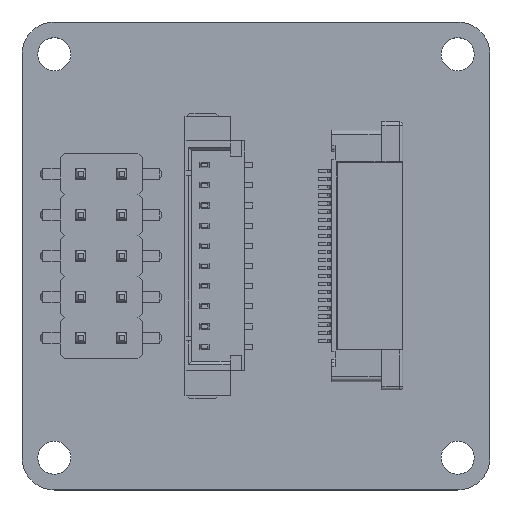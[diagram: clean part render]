
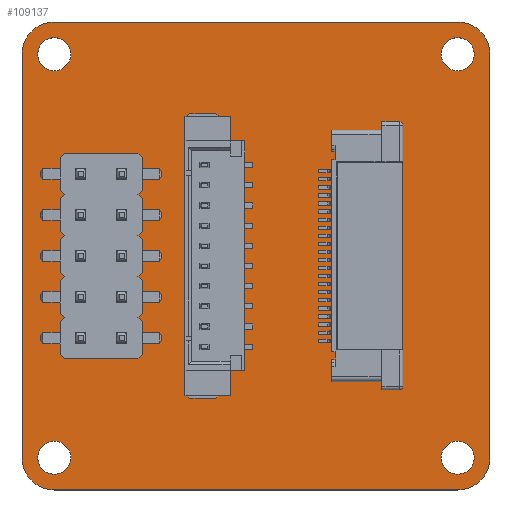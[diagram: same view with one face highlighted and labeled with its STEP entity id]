
A CAD part, top view. The second image highlights one B-rep face of the part: STEP entity #109137.
In plain terms, the highlighted planar face has unit normal (0, 0, 1).
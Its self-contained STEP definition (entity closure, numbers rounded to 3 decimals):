
#108944 = VERTEX_POINT('',#108945);
#108945 = CARTESIAN_POINT('',(77.,-121.,1.59));
#108951 = EDGE_CURVE('',#108944,#108952,#108954,.T.);
#108952 = VERTEX_POINT('',#108953);
#108953 = CARTESIAN_POINT('',(79.,-123.,1.59));
#108954 = CIRCLE('',#108955,2.);
#108955 = AXIS2_PLACEMENT_3D('',#108956,#108957,#108958);
#108956 = CARTESIAN_POINT('',(77.,-123.,1.59));
#108957 = DIRECTION('',(0.,0.,-1.));
#108958 = DIRECTION('',(0.,1.,0.));
#108986 = VERTEX_POINT('',#108987);
#108987 = CARTESIAN_POINT('',(52.,-121.,1.59));
#108993 = EDGE_CURVE('',#108986,#108944,#108994,.T.);
#108994 = LINE('',#108995,#108996);
#108995 = CARTESIAN_POINT('',(52.,-121.,1.59));
#108996 = VECTOR('',#108997,1.);
#108997 = DIRECTION('',(1.,0.,0.));
#109015 = EDGE_CURVE('',#108952,#109016,#109018,.T.);
#109016 = VERTEX_POINT('',#109017);
#109017 = CARTESIAN_POINT('',(79.,-148.,1.59));
#109018 = LINE('',#109019,#109020);
#109019 = CARTESIAN_POINT('',(79.,-123.,1.59));
#109020 = VECTOR('',#109021,1.);
#109021 = DIRECTION('',(0.,-1.,0.));
#109137 = ADVANCED_FACE('',(#109138,#109184,#109195,#109206,#109217),
  #109228,.T.);
#109138 = FACE_BOUND('',#109139,.T.);
#109139 = EDGE_LOOP('',(#109140,#109141,#109142,#109151,#109159,#109168,
    #109176,#109183));
#109140 = ORIENTED_EDGE('',*,*,#108951,.F.);
#109141 = ORIENTED_EDGE('',*,*,#108993,.F.);
#109142 = ORIENTED_EDGE('',*,*,#109143,.F.);
#109143 = EDGE_CURVE('',#109144,#108986,#109146,.T.);
#109144 = VERTEX_POINT('',#109145);
#109145 = CARTESIAN_POINT('',(50.,-123.,1.59));
#109146 = CIRCLE('',#109147,2.);
#109147 = AXIS2_PLACEMENT_3D('',#109148,#109149,#109150);
#109148 = CARTESIAN_POINT('',(52.,-123.,1.59));
#109149 = DIRECTION('',(0.,0.,-1.));
#109150 = DIRECTION('',(-1.,0.,-0.));
#109151 = ORIENTED_EDGE('',*,*,#109152,.F.);
#109152 = EDGE_CURVE('',#109153,#109144,#109155,.T.);
#109153 = VERTEX_POINT('',#109154);
#109154 = CARTESIAN_POINT('',(50.,-148.,1.59));
#109155 = LINE('',#109156,#109157);
#109156 = CARTESIAN_POINT('',(50.,-148.,1.59));
#109157 = VECTOR('',#109158,1.);
#109158 = DIRECTION('',(0.,1.,0.));
#109159 = ORIENTED_EDGE('',*,*,#109160,.F.);
#109160 = EDGE_CURVE('',#109161,#109153,#109163,.T.);
#109161 = VERTEX_POINT('',#109162);
#109162 = CARTESIAN_POINT('',(52.,-150.,1.59));
#109163 = CIRCLE('',#109164,2.);
#109164 = AXIS2_PLACEMENT_3D('',#109165,#109166,#109167);
#109165 = CARTESIAN_POINT('',(52.,-148.,1.59));
#109166 = DIRECTION('',(0.,0.,-1.));
#109167 = DIRECTION('',(0.,-1.,0.));
#109168 = ORIENTED_EDGE('',*,*,#109169,.F.);
#109169 = EDGE_CURVE('',#109170,#109161,#109172,.T.);
#109170 = VERTEX_POINT('',#109171);
#109171 = CARTESIAN_POINT('',(77.,-150.,1.59));
#109172 = LINE('',#109173,#109174);
#109173 = CARTESIAN_POINT('',(77.,-150.,1.59));
#109174 = VECTOR('',#109175,1.);
#109175 = DIRECTION('',(-1.,0.,0.));
#109176 = ORIENTED_EDGE('',*,*,#109177,.F.);
#109177 = EDGE_CURVE('',#109016,#109170,#109178,.T.);
#109178 = CIRCLE('',#109179,2.);
#109179 = AXIS2_PLACEMENT_3D('',#109180,#109181,#109182);
#109180 = CARTESIAN_POINT('',(77.,-148.,1.59));
#109181 = DIRECTION('',(0.,0.,-1.));
#109182 = DIRECTION('',(1.,0.,0.));
#109183 = ORIENTED_EDGE('',*,*,#109015,.F.);
#109184 = FACE_BOUND('',#109185,.T.);
#109185 = EDGE_LOOP('',(#109186));
#109186 = ORIENTED_EDGE('',*,*,#109187,.T.);
#109187 = EDGE_CURVE('',#109188,#109188,#109190,.T.);
#109188 = VERTEX_POINT('',#109189);
#109189 = CARTESIAN_POINT('',(52.,-149.025,1.59));
#109190 = CIRCLE('',#109191,1.025);
#109191 = AXIS2_PLACEMENT_3D('',#109192,#109193,#109194);
#109192 = CARTESIAN_POINT('',(52.,-148.,1.59));
#109193 = DIRECTION('',(-0.,0.,-1.));
#109194 = DIRECTION('',(-0.,-1.,0.));
#109195 = FACE_BOUND('',#109196,.T.);
#109196 = EDGE_LOOP('',(#109197));
#109197 = ORIENTED_EDGE('',*,*,#109198,.T.);
#109198 = EDGE_CURVE('',#109199,#109199,#109201,.T.);
#109199 = VERTEX_POINT('',#109200);
#109200 = CARTESIAN_POINT('',(77.,-149.025,1.59));
#109201 = CIRCLE('',#109202,1.025);
#109202 = AXIS2_PLACEMENT_3D('',#109203,#109204,#109205);
#109203 = CARTESIAN_POINT('',(77.,-148.,1.59));
#109204 = DIRECTION('',(-0.,0.,-1.));
#109205 = DIRECTION('',(-0.,-1.,0.));
#109206 = FACE_BOUND('',#109207,.T.);
#109207 = EDGE_LOOP('',(#109208));
#109208 = ORIENTED_EDGE('',*,*,#109209,.T.);
#109209 = EDGE_CURVE('',#109210,#109210,#109212,.T.);
#109210 = VERTEX_POINT('',#109211);
#109211 = CARTESIAN_POINT('',(52.,-124.025,1.59));
#109212 = CIRCLE('',#109213,1.025);
#109213 = AXIS2_PLACEMENT_3D('',#109214,#109215,#109216);
#109214 = CARTESIAN_POINT('',(52.,-123.,1.59));
#109215 = DIRECTION('',(-0.,0.,-1.));
#109216 = DIRECTION('',(-0.,-1.,0.));
#109217 = FACE_BOUND('',#109218,.T.);
#109218 = EDGE_LOOP('',(#109219));
#109219 = ORIENTED_EDGE('',*,*,#109220,.T.);
#109220 = EDGE_CURVE('',#109221,#109221,#109223,.T.);
#109221 = VERTEX_POINT('',#109222);
#109222 = CARTESIAN_POINT('',(77.,-124.025,1.59));
#109223 = CIRCLE('',#109224,1.025);
#109224 = AXIS2_PLACEMENT_3D('',#109225,#109226,#109227);
#109225 = CARTESIAN_POINT('',(77.,-123.,1.59));
#109226 = DIRECTION('',(-0.,0.,-1.));
#109227 = DIRECTION('',(-0.,-1.,0.));
#109228 = PLANE('',#109229);
#109229 = AXIS2_PLACEMENT_3D('',#109230,#109231,#109232);
#109230 = CARTESIAN_POINT('',(0.,0.,1.59));
#109231 = DIRECTION('',(0.,0.,1.));
#109232 = DIRECTION('',(1.,0.,-0.));
